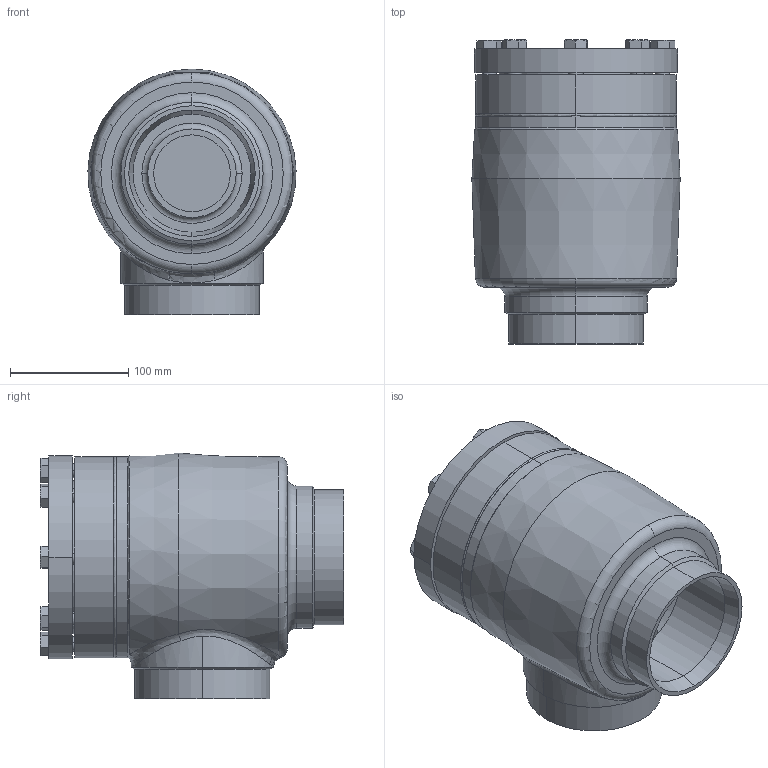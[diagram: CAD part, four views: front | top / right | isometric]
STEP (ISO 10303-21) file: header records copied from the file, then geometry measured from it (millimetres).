
FILE_DESCRIPTION (( 'STEP AP214' ), '1' );
FILE_NAME ('RV28400D19-DN100_R1_PS40.STEP', '2007-01-08T07:37:18', ( 'Herr Grams' ), ( 'AWP GmbH' ), 'SwSTEP 2.0', 'SolidWorks 2002296', '' );
FILE_SCHEMA (( 'AUTOMOTIVE_DESIGN' ));
Length unit declared in the file: millimetre
Products named in the file (8): RV28400D19-DN100_R1_PS40; Gehäuse-kpl16400-DN100_R1_Standard; Gehäuse16400-DN100_Standard; Kopfstück16300-DN100_Standard; bead-DN100-1_Standard; RV28300E19_Deck+Schr-DN100_Standard; Deckel28300E19-DN100_Standard; Sechskantschraube-DIN933_M12x 35
Assembly tree (14 placements, depth 3):
  RV28400D19-DN100_R1_PS40
    Gehäuse-kpl16400-DN100_R1_Standard
      bead-DN100-1_Standard
      Kopfstück16300-DN100_Standard
      Gehäuse16400-DN100_Standard
    RV28300E19_Deck+Schr-DN100_Standard
      Sechskantschraube-DIN933_M12x 35  x8
      Deckel28300E19-DN100_Standard
Bounding box: 176.38 x 257.5 x 208.23 mm (x, y, z)
Volume: 2696970.3 mm3; surface area: 402107.5 mm2
Topology: 12 solids, 12 shells, 293 faces, 630 edges, 375 vertices
Faces by surface type: cone 124, plane 88, cylinder 65, bspline 10, torus 6
Entity records: 15465 total; most frequent: CARTESIAN_POINT 12259, DIRECTION 597, ORIENTED_EDGE 532, EDGE_CURVE 266, AXIS2_PLACEMENT_3D 265, VERTEX_POINT 165, EDGE_LOOP 149, CIRCLE 138
